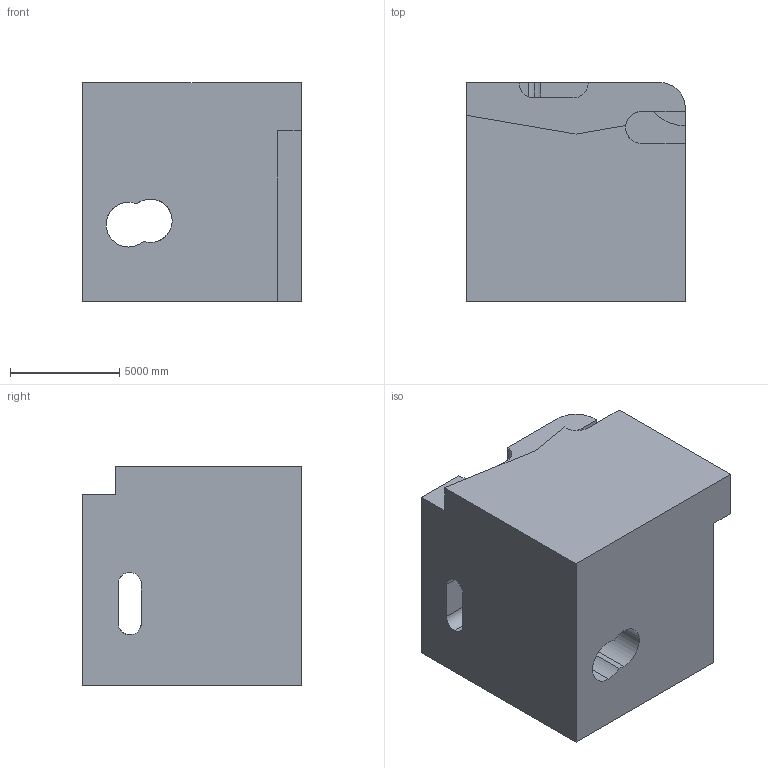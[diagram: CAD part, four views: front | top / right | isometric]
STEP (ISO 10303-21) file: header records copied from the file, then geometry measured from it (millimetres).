
FILE_DESCRIPTION (( 'STEP AP203' ), '1' );
FILE_NAME ('974.STEP', '2022-07-29T14:51:05', ( 'user' ), ( '' ), 'SwSTEP 2.0', 'SolidWorks 2021', '' );
FILE_SCHEMA (( 'CONFIG_CONTROL_DESIGN' ));
Length unit declared in the file: centimetre
Products named in the file (1): 974
Bounding box: 10000 x 10000 x 10000 mm (x, y, z)
Volume: 834525067610.1 mm3; surface area: 746497999.8 mm2
Topology: 1 solids, 1 shells, 46 faces, 141 edges, 94 vertices
Faces by surface type: plane 24, cylinder 22
Entity records: 2105 total; most frequent: CARTESIAN_POINT 740, ORIENTED_EDGE 282, DIRECTION 263, EDGE_CURVE 141, VERTEX_POINT 94, AXIS2_PLACEMENT_3D 90, LINE 83, VECTOR 83
